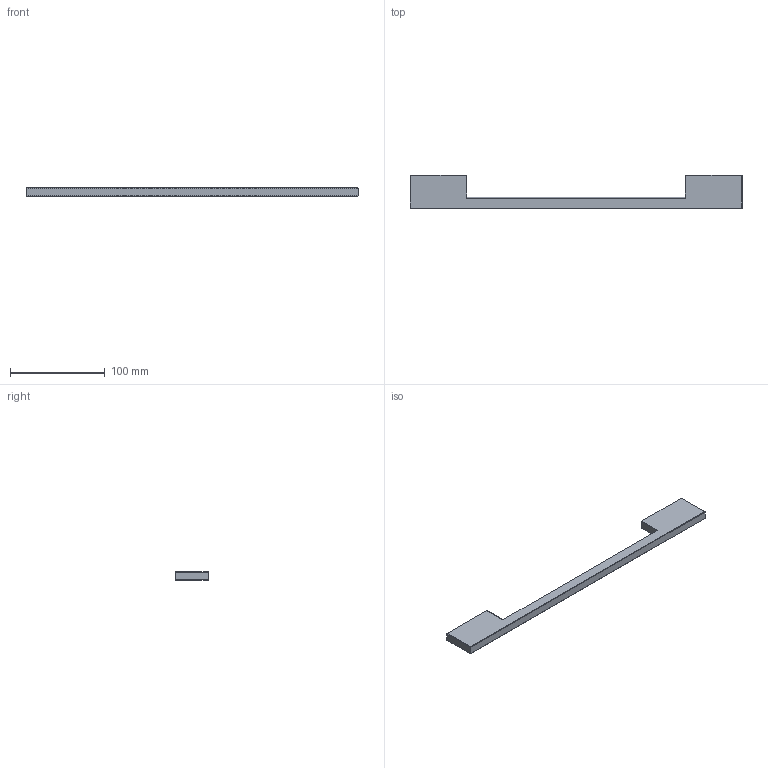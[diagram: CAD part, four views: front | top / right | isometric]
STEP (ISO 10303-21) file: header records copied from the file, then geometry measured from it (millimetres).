
FILE_DESCRIPTION( ( '' ), '1' );
FILE_NAME( 'D:/1.AUTOCAD EXPORT/Group 10/sheet_10_1/DONE/Sachin_1/9995587.stp', '2013-10-29T10:03:11', ( '' ), ( '' ), ' ', ' ', ' ' );
FILE_SCHEMA( ( 'CONFIG_CONTROL_DESIGN' ) );
Length unit declared in the file: millimetre
Products named in the file (1): 1
Bounding box: 350 x 35 x 9 mm (x, y, z)
Volume: 61599 mm3; surface area: 20927.4 mm2
Topology: 1 solids, 1 shells, 26 faces, 62 edges, 40 vertices
Faces by surface type: cylinder 15, plane 11
Entity records: 828 total; most frequent: CARTESIAN_POINT 165, DIRECTION 134, ORIENTED_EDGE 124, EDGE_CURVE 62, AXIS2_PLACEMENT_3D 49, VERTEX_POINT 40, LINE 36, VECTOR 36
